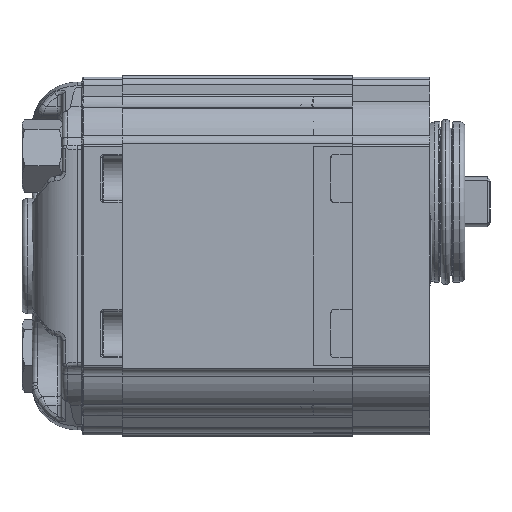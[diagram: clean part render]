
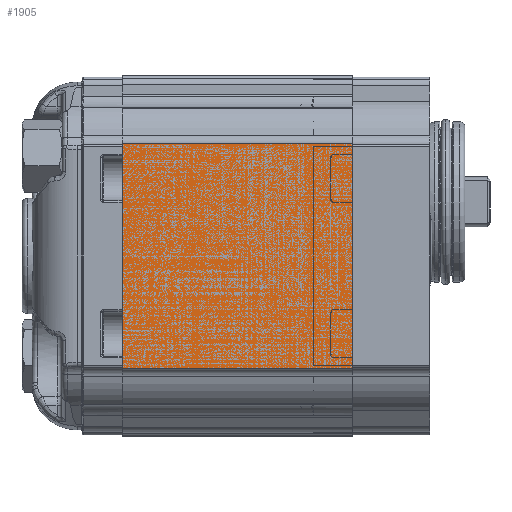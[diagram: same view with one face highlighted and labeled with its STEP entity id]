
A CAD part, left-side view. The second image highlights one B-rep face of the part: STEP entity #1905.
In plain terms, the highlighted planar face has unit normal (-1, 0, 0) as drawn and (1, 0, 0) by its records, which use the part's own axes.
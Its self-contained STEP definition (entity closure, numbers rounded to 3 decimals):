
#1905 = ADVANCED_FACE( '', ( #4888 ), #4889, .T. );
#4888 = FACE_OUTER_BOUND( '', #9817, .T. );
#4889 = PLANE( '', #9818 );
#9817 = EDGE_LOOP( '', ( #18333, #18334, #18335, #18336 ) );
#9818 = AXIS2_PLACEMENT_3D( '', #18337, #18338, #18339 );
#18333 = ORIENTED_EDGE( '', *, *, #28663, .T. );
#18334 = ORIENTED_EDGE( '', *, *, #27251, .T. );
#18335 = ORIENTED_EDGE( '', *, *, #27371, .T. );
#18336 = ORIENTED_EDGE( '', *, *, #28664, .F. );
#18337 = CARTESIAN_POINT( '', ( 33., 126.409, -45.494 ) );
#18338 = DIRECTION( '', ( 1., 0., 0. ) );
#18339 = DIRECTION( '', ( 0., 0., -1. ) );
#27251 = EDGE_CURVE( '', #31722, #31720, #31723, .T. );
#27371 = EDGE_CURVE( '', #31720, #31942, #31943, .F. );
#28663 = EDGE_CURVE( '', #34125, #31722, #34126, .T. );
#28664 = EDGE_CURVE( '', #34125, #31942, #34127, .T. );
#31720 = VERTEX_POINT( '', #38095 );
#31722 = VERTEX_POINT( '', #38097 );
#31723 = LINE( '', #38098, #38099 );
#31942 = VERTEX_POINT( '', #38490 );
#31943 = LINE( '', #38491, #38492 );
#34125 = VERTEX_POINT( '', #43322 );
#34126 = LINE( '', #43323, #43324 );
#34127 = LINE( '', #43325, #43326 );
#38095 = CARTESIAN_POINT( '', ( 33., 0., -22.5 ) );
#38097 = CARTESIAN_POINT( '', ( 33., 0., 22.5 ) );
#38098 = CARTESIAN_POINT( '', ( 33., 0., -21.711 ) );
#38099 = VECTOR( '', #52391, 1000. );
#38490 = CARTESIAN_POINT( '', ( 33., 46., -22.5 ) );
#38491 = CARTESIAN_POINT( '', ( 33., 46., -22.5 ) );
#38492 = VECTOR( '', #52575, 1000. );
#43322 = CARTESIAN_POINT( '', ( 33., 46., 22.5 ) );
#43323 = CARTESIAN_POINT( '', ( 33., 46., 22.5 ) );
#43324 = VECTOR( '', #54277, 1000. );
#43325 = CARTESIAN_POINT( '', ( 33., 46., -21.711 ) );
#43326 = VECTOR( '', #54278, 1000. );
#52391 = DIRECTION( '', ( 0., 0., -1. ) );
#52575 = DIRECTION( '', ( 0., -1., 0. ) );
#54277 = DIRECTION( '', ( 0., -1., 0. ) );
#54278 = DIRECTION( '', ( 0., 0., -1. ) );
